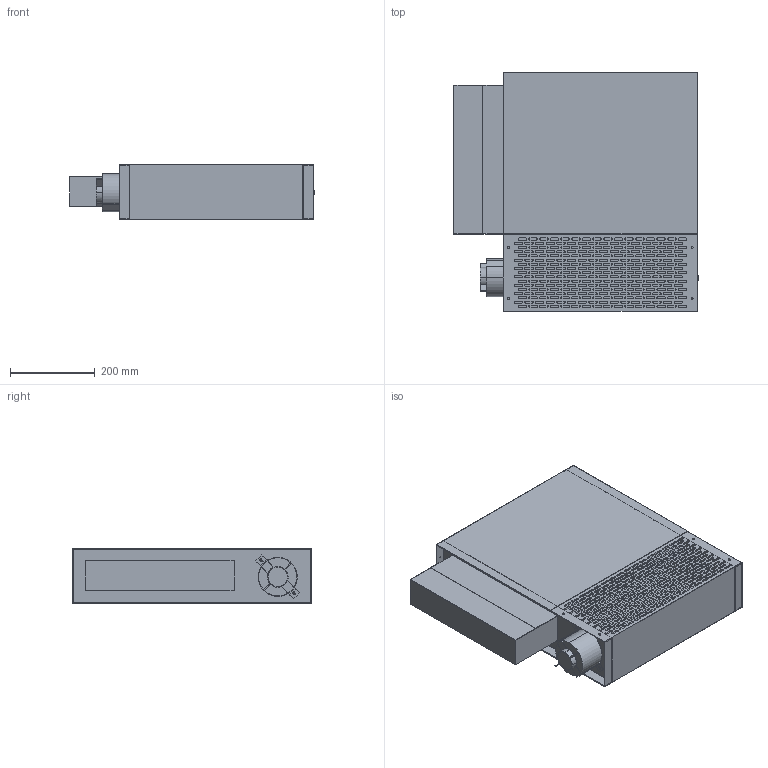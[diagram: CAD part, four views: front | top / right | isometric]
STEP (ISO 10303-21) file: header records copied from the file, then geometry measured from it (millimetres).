
FILE_DESCRIPTION (( 'STEP AP214' ), '1' );
FILE_NAME ('PFWSLA-01.STEP', '2024-09-28T16:06:17', ( '' ), ( '' ), 'SwSTEP 2.0', 'SolidWorks 2023', '' );
FILE_SCHEMA (( 'AUTOMOTIVE_DESIGN' ));
Length unit declared in the file: inch
Products named in the file (1): PFWSLA-01
Bounding box: 577.16 x 561.98 x 130.18 mm (x, y, z)
Volume: 11078830.2 mm3; surface area: 2401906.1 mm2
Topology: 18 solids, 18 shells, 2227 faces, 6231 edges, 4138 vertices
Faces by surface type: plane 1258, cylinder 969
Entity records: 73373 total; most frequent: DIRECTION 12629, CARTESIAN_POINT 12597, ORIENTED_EDGE 12462, EDGE_CURVE 6231, VECTOR 4289, LINE 4289, AXIS2_PLACEMENT_3D 4170, VERTEX_POINT 4138
